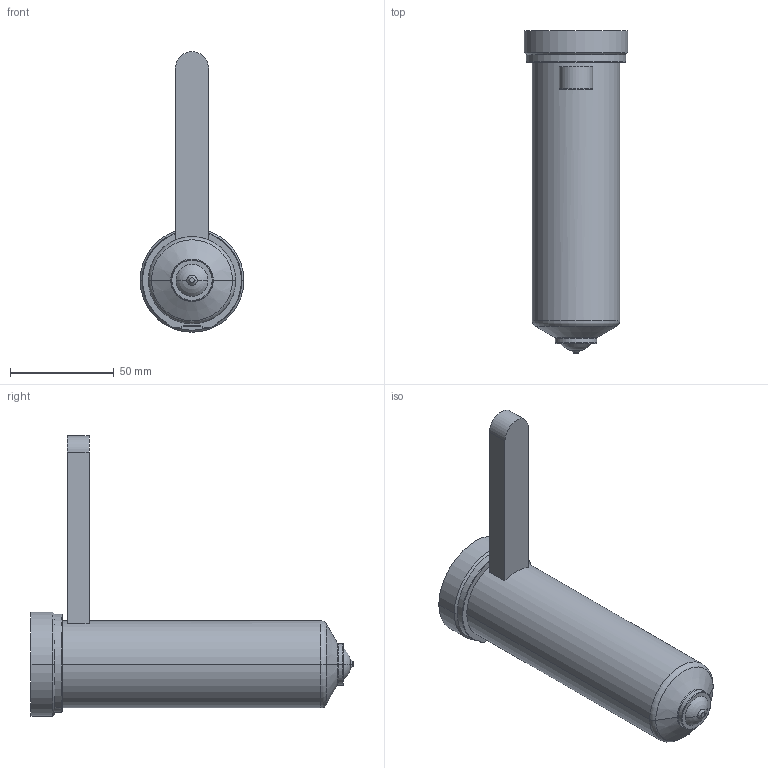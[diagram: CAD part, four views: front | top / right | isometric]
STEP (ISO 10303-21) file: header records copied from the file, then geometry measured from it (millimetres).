
FILE_DESCRIPTION((''),'2;1');
FILE_NAME('EO16_PG-BL_STD_140_COT','2024-02-19T11:17:14',('sundharh'),(''),'CREO PARAMETRIC BY PTC INC, 2023154','CREO PARAMETRIC BY PTC INC, 2023154','');
FILE_SCHEMA(('CONFIG_CONTROL_DESIGN'));
Length unit declared in the file: millimetre
Products named in the file (1): EO16_PG-BL_STD_140_COT
Bounding box: 50 x 155 x 135 mm (x, y, z)
Volume: 224638.1 mm3; surface area: 27787.1 mm2
Topology: 1 solids, 1 shells, 40 faces, 85 edges, 50 vertices
Faces by surface type: cylinder 13, plane 10, torus 9, cone 6, sphere 2
Entity records: 1201 total; most frequent: CARTESIAN_POINT 271, DIRECTION 209, ORIENTED_EDGE 170, AXIS2_PLACEMENT_3D 90, EDGE_CURVE 85, VERTEX_POINT 50, CIRCLE 50, EDGE_LOOP 43
